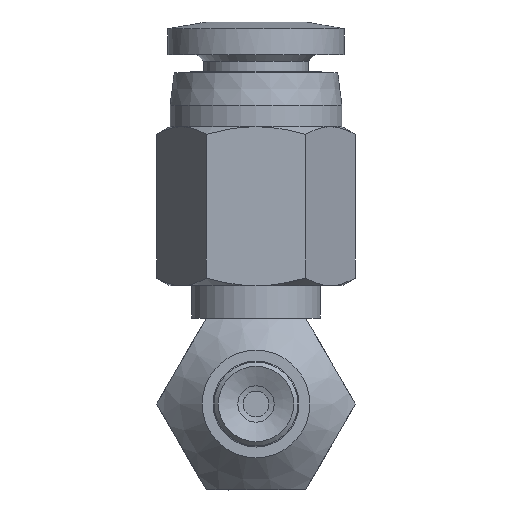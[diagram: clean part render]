
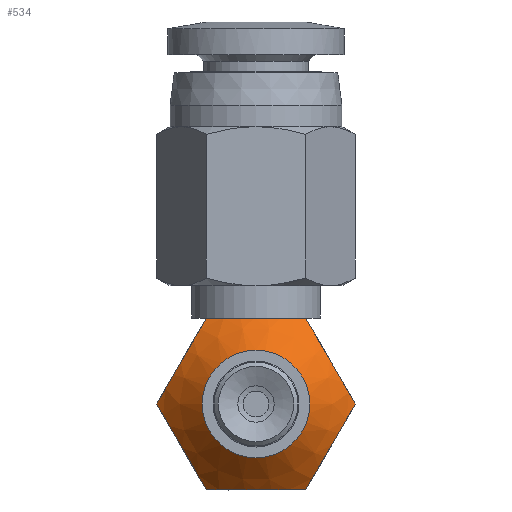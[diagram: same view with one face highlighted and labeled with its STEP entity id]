
A CAD part, front view. The second image highlights one B-rep face of the part: STEP entity #534.
In plain terms, the highlighted conical face has half-angle 45 degrees and reference radius 2.5 mm.
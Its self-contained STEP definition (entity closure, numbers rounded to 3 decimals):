
#534=ADVANCED_FACE('',(#798,#799),#800,.T.);
#798=FACE_BOUND('',#1180,.T.);
#799=FACE_OUTER_BOUND('',#1181,.T.);
#800=CONICAL_SURFACE('',#1182,2.5,0.785);
#1180=EDGE_LOOP('',(#2142));
#1181=EDGE_LOOP('',(#2143,#2144,#2145,#2146,#2147,#2148));
#1182=AXIS2_PLACEMENT_3D('',#2149,#2150,#2151);
#2142=ORIENTED_EDGE('',*,*,#2702,.F.);
#2143=ORIENTED_EDGE('',*,*,#2686,.F.);
#2144=ORIENTED_EDGE('',*,*,#2744,.F.);
#2145=ORIENTED_EDGE('',*,*,#2745,.F.);
#2146=ORIENTED_EDGE('',*,*,#2730,.F.);
#2147=ORIENTED_EDGE('',*,*,#2726,.F.);
#2148=ORIENTED_EDGE('',*,*,#2679,.F.);
#2149=CARTESIAN_POINT('',(0.0,0.,0.0));
#2150=DIRECTION('',(-0.0,1.0,-0.0));
#2151=DIRECTION('',(0.0,0.0,1.0));
#2679=EDGE_CURVE('',#3006,#3007,#3008,.T.);
#2686=EDGE_CURVE('',#3019,#3006,#3020,.T.);
#2702=EDGE_CURVE('',#3047,#3047,#3048,.T.);
#2726=EDGE_CURVE('',#3007,#3089,#3090,.T.);
#2730=EDGE_CURVE('',#3089,#3096,#3097,.T.);
#2744=EDGE_CURVE('',#3114,#3019,#3115,.T.);
#2745=EDGE_CURVE('',#3096,#3114,#3116,.T.);
#3006=VERTEX_POINT('',#3754);
#3007=VERTEX_POINT('',#3755);
#3008=B_SPLINE_CURVE_WITH_KNOTS('',2,(#3756,#3757,#3758,#3759,#3760),.UNSPECIFIED.,.F.,.F.,(3,2,3),(0.0,0.5,1.0),.UNSPECIFIED.);
#3019=VERTEX_POINT('',#3779);
#3020=B_SPLINE_CURVE_WITH_KNOTS('',2,(#3780,#3781,#3782,#3783,#3784),.UNSPECIFIED.,.F.,.F.,(3,2,3),(0.0,0.5,1.0),.UNSPECIFIED.);
#3047=VERTEX_POINT('',#3823);
#3048=CIRCLE('',#3824,2.5);
#3089=VERTEX_POINT('',#3882);
#3090=B_SPLINE_CURVE_WITH_KNOTS('',2,(#3883,#3884,#3885,#3886,#3887),.UNSPECIFIED.,.F.,.F.,(3,2,3),(0.0,0.5,1.0),.UNSPECIFIED.);
#3096=VERTEX_POINT('',#3898);
#3097=B_SPLINE_CURVE_WITH_KNOTS('',2,(#3899,#3900,#3901,#3902,#3903),.UNSPECIFIED.,.F.,.F.,(3,2,3),(0.0,0.5,1.0),.UNSPECIFIED.);
#3114=VERTEX_POINT('',#3926);
#3115=B_SPLINE_CURVE_WITH_KNOTS('',2,(#3927,#3928,#3929,#3930,#3931),.UNSPECIFIED.,.F.,.F.,(3,2,3),(0.0,0.5,1.0),.UNSPECIFIED.);
#3116=B_SPLINE_CURVE_WITH_KNOTS('',2,(#3932,#3933,#3934,#3935,#3936),.UNSPECIFIED.,.F.,.F.,(3,2,3),(0.0,0.5,1.0),.UNSPECIFIED.);
#3754=CARTESIAN_POINT('',(2.309,2.119,-4.0));
#3755=CARTESIAN_POINT('',(-2.309,2.119,-4.0));
#3756=CARTESIAN_POINT('',(2.309,2.119,-4.0));
#3757=CARTESIAN_POINT('',(1.072,1.5,-4.0));
#3758=CARTESIAN_POINT('',(0.001,1.5,-4.0));
#3759=CARTESIAN_POINT('',(-1.071,1.5,-4.0));
#3760=CARTESIAN_POINT('',(-2.309,2.119,-4.0));
#3779=CARTESIAN_POINT('',(4.619,2.119,0.));
#3780=CARTESIAN_POINT('',(4.619,2.119,0.));
#3781=CARTESIAN_POINT('',(4.002,1.502,-1.068));
#3782=CARTESIAN_POINT('',(3.468,1.5,-1.993));
#3783=CARTESIAN_POINT('',(2.93,1.498,-2.925));
#3784=CARTESIAN_POINT('',(2.309,2.119,-4.));
#3823=CARTESIAN_POINT('',(0.0,0.,-2.5));
#3824=AXIS2_PLACEMENT_3D('',#4544,#4545,#4546);
#3882=CARTESIAN_POINT('',(-4.619,2.119,0.));
#3883=CARTESIAN_POINT('',(-2.309,2.119,-4.0));
#3884=CARTESIAN_POINT('',(-2.926,1.502,-2.932));
#3885=CARTESIAN_POINT('',(-3.46,1.5,-2.007));
#3886=CARTESIAN_POINT('',(-3.998,1.498,-1.075));
#3887=CARTESIAN_POINT('',(-4.619,2.119,0.));
#3898=CARTESIAN_POINT('',(-2.309,2.119,4.0));
#3899=CARTESIAN_POINT('',(-4.619,2.119,0.));
#3900=CARTESIAN_POINT('',(-4.002,1.502,1.068));
#3901=CARTESIAN_POINT('',(-3.468,1.5,1.993));
#3902=CARTESIAN_POINT('',(-2.93,1.498,2.925));
#3903=CARTESIAN_POINT('',(-2.309,2.119,4.));
#3926=CARTESIAN_POINT('',(2.309,2.119,4.0));
#3927=CARTESIAN_POINT('',(2.309,2.119,4.0));
#3928=CARTESIAN_POINT('',(2.926,1.502,2.932));
#3929=CARTESIAN_POINT('',(3.46,1.5,2.007));
#3930=CARTESIAN_POINT('',(3.998,1.498,1.075));
#3931=CARTESIAN_POINT('',(4.619,2.119,0.));
#3932=CARTESIAN_POINT('',(-2.309,2.119,4.0));
#3933=CARTESIAN_POINT('',(-1.072,1.5,4.0));
#3934=CARTESIAN_POINT('',(-0.001,1.5,4.0));
#3935=CARTESIAN_POINT('',(1.071,1.5,4.0));
#3936=CARTESIAN_POINT('',(2.309,2.119,4.0));
#4544=CARTESIAN_POINT('',(0.0,0.,0.0));
#4545=DIRECTION('',(0.0,-1.0,0.0));
#4546=DIRECTION('',(0.0,0.0,-1.0));
